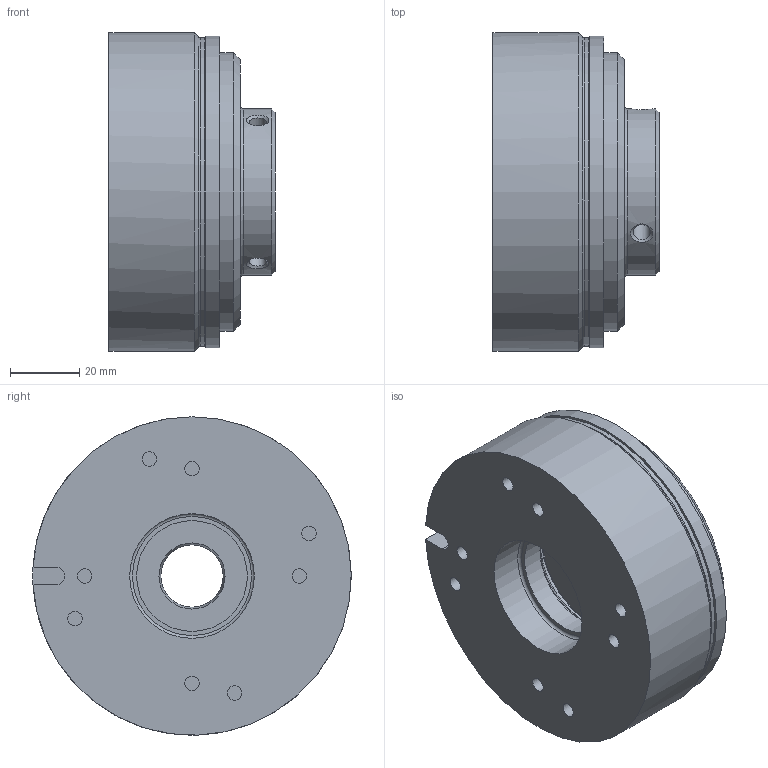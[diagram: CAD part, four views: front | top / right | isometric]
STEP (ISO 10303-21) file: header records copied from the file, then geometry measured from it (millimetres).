
FILE_DESCRIPTION (( 'STEP AP214' ), '1' );
FILE_NAME ('86_61109K00-0003_Idx_h.STEP', '2024-12-11T08:41:48', ( '' ), ( '' ), 'SwSTEP 2.0', 'SolidWorks 2018', '' );
FILE_SCHEMA (( 'AUTOMOTIVE_DESIGN' ));
Length unit declared in the file: millimetre
Products named in the file (1): 86_61109K00-0003_Idx_h
Bounding box: 47.97 x 92 x 92 mm (x, y, z)
Volume: 225223 mm3; surface area: 42159.5 mm2
Topology: 2 solids, 2 shells, 60 faces, 111 edges, 70 vertices
Faces by surface type: cylinder 24, plane 22, cone 10, torus 4
Full cylindrical faces by diameter (mm): 4.2 x8, 5 x3, 18 x1, 32 x1, 36 x1, 39 x1, 40.6 x1, 41.9 x1, 48 x1, 75.8 x1, 80.5 x1, 89.2 x1, 90 x1, 92 x1
Entity records: 1802 total; most frequent: CARTESIAN_POINT 553, DIRECTION 242, ORIENTED_EDGE 140, EDGE_LOOP 122, AXIS2_PLACEMENT_3D 117, FACE_OUTER_BOUND 87, EDGE_CURVE 70, VERTEX_POINT 66
